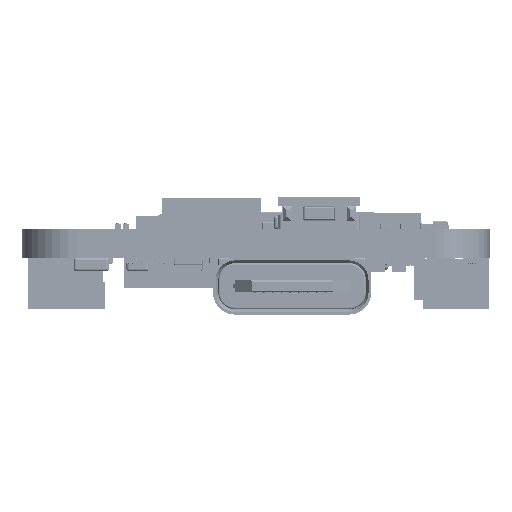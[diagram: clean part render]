
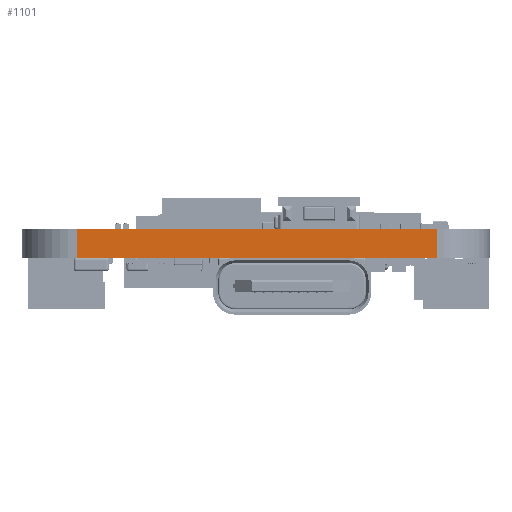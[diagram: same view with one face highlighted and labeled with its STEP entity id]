
A CAD part, left-side view. The second image highlights one B-rep face of the part: STEP entity #1101.
In plain terms, the highlighted planar face has unit normal (-1, 0, 0).
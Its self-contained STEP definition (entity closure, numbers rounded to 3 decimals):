
#1074 = VERTEX_POINT('',#1075);
#1075 = CARTESIAN_POINT('',(-13.207,10.046,0.));
#1082 = EDGE_CURVE('',#1083,#1074,#1085,.T.);
#1083 = VERTEX_POINT('',#1084);
#1084 = CARTESIAN_POINT('',(-13.207,10.046,-1.607)
  );
#1085 = LINE('',#1086,#1087);
#1086 = CARTESIAN_POINT('',(-13.207,10.046,-1.607)
  );
#1087 = VECTOR('',#1088,1.);
#1088 = DIRECTION('',(0.,0.,1.));
#1101 = ADVANCED_FACE('',(#1102),#1127,.F.);
#1102 = FACE_BOUND('',#1103,.F.);
#1103 = EDGE_LOOP('',(#1104,#1105,#1113,#1121));
#1104 = ORIENTED_EDGE('',*,*,#1082,.T.);
#1105 = ORIENTED_EDGE('',*,*,#1106,.T.);
#1106 = EDGE_CURVE('',#1074,#1107,#1109,.T.);
#1107 = VERTEX_POINT('',#1108);
#1108 = CARTESIAN_POINT('',(-13.207,-10.29,0.));
#1109 = LINE('',#1110,#1111);
#1110 = CARTESIAN_POINT('',(-13.207,10.046,0.));
#1111 = VECTOR('',#1112,1.);
#1112 = DIRECTION('',(0.,-1.,0.));
#1113 = ORIENTED_EDGE('',*,*,#1114,.F.);
#1114 = EDGE_CURVE('',#1115,#1107,#1117,.T.);
#1115 = VERTEX_POINT('',#1116);
#1116 = CARTESIAN_POINT('',(-13.207,-10.29,-1.607)
  );
#1117 = LINE('',#1118,#1119);
#1118 = CARTESIAN_POINT('',(-13.207,-10.29,-1.607)
  );
#1119 = VECTOR('',#1120,1.);
#1120 = DIRECTION('',(0.,0.,1.));
#1121 = ORIENTED_EDGE('',*,*,#1122,.F.);
#1122 = EDGE_CURVE('',#1083,#1115,#1123,.T.);
#1123 = LINE('',#1124,#1125);
#1124 = CARTESIAN_POINT('',(-13.207,10.046,-1.607)
  );
#1125 = VECTOR('',#1126,1.);
#1126 = DIRECTION('',(0.,-1.,0.));
#1127 = PLANE('',#1128);
#1128 = AXIS2_PLACEMENT_3D('',#1129,#1130,#1131);
#1129 = CARTESIAN_POINT('',(-13.207,10.046,-1.607)
  );
#1130 = DIRECTION('',(1.,0.,0.));
#1131 = DIRECTION('',(0.,-1.,0.));
